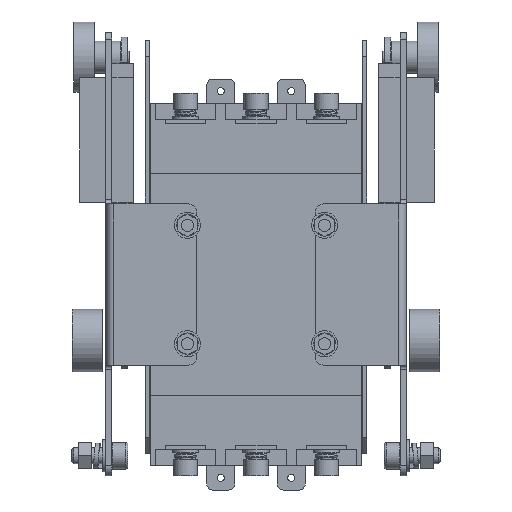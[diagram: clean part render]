
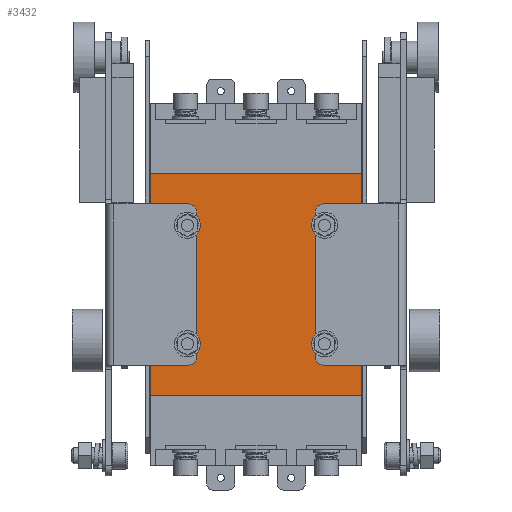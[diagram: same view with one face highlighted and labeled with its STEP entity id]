
A CAD part, front view. The second image highlights one B-rep face of the part: STEP entity #3432.
In plain terms, the highlighted planar face has unit normal (0, -1, 0).
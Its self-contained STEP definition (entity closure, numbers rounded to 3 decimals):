
#3432=ADVANCED_FACE('',(#5818,#5819,#5820,#5821,#5822),#4832,.T.);
#4832=PLANE('',#28495);
#5818=FACE_BOUND('',#7193,.T.);
#5819=FACE_BOUND('',#7194,.T.);
#5820=FACE_BOUND('',#7195,.T.);
#5821=FACE_BOUND('',#7196,.T.);
#5822=FACE_BOUND('',#7197,.T.);
#7193=EDGE_LOOP('',(#15841));
#7194=EDGE_LOOP('',(#15842));
#7195=EDGE_LOOP('',(#15843));
#7196=EDGE_LOOP('',(#15844));
#7197=EDGE_LOOP('',(#15845,#15846,#15847,#15848));
#9421=LINE('',#42483,#11694);
#9448=LINE('',#42539,#11721);
#9451=LINE('',#42545,#11724);
#9452=LINE('',#42555,#11725);
#11694=VECTOR('',#32687,1.);
#11721=VECTOR('',#32732,1.);
#11724=VECTOR('',#32737,1.);
#11725=VECTOR('',#32748,1.);
#15841=ORIENTED_EDGE('',*,*,#24285,.F.);
#15842=ORIENTED_EDGE('',*,*,#24286,.F.);
#15843=ORIENTED_EDGE('',*,*,#24287,.F.);
#15844=ORIENTED_EDGE('',*,*,#24288,.F.);
#15845=ORIENTED_EDGE('',*,*,#24281,.T.);
#15846=ORIENTED_EDGE('',*,*,#24248,.T.);
#15847=ORIENTED_EDGE('',*,*,#24284,.T.);
#15848=ORIENTED_EDGE('',*,*,#24289,.T.);
#21321=VERTEX_POINT('',#42484);
#21322=VERTEX_POINT('',#42485);
#21341=VERTEX_POINT('',#42540);
#21342=VERTEX_POINT('',#42544);
#21343=VERTEX_POINT('',#42548);
#21344=VERTEX_POINT('',#42550);
#21345=VERTEX_POINT('',#42552);
#21346=VERTEX_POINT('',#42554);
#24248=EDGE_CURVE('',#21321,#21322,#9421,.T.);
#24281=EDGE_CURVE('',#21341,#21321,#9448,.T.);
#24284=EDGE_CURVE('',#21322,#21342,#9451,.T.);
#24285=EDGE_CURVE('',#21343,#21343,#26833,.T.);
#24286=EDGE_CURVE('',#21344,#21344,#26834,.T.);
#24287=EDGE_CURVE('',#21345,#21345,#26835,.T.);
#24288=EDGE_CURVE('',#21346,#21346,#26836,.T.);
#24289=EDGE_CURVE('',#21342,#21341,#9452,.T.);
#26833=CIRCLE('',#28491,2.5);
#26834=CIRCLE('',#28492,2.5);
#26835=CIRCLE('',#28493,2.5);
#26836=CIRCLE('',#28494,2.5);
#28491=AXIS2_PLACEMENT_3D('',#42547,#32740,#32741);
#28492=AXIS2_PLACEMENT_3D('',#42549,#32742,#32743);
#28493=AXIS2_PLACEMENT_3D('',#42551,#32744,#32745);
#28494=AXIS2_PLACEMENT_3D('',#42553,#32746,#32747);
#28495=AXIS2_PLACEMENT_3D('',#42556,#32749,#32750);
#32687=DIRECTION('',(1.,0.,0.));
#32732=DIRECTION('',(0.,0.,-1.));
#32737=DIRECTION('',(0.,0.,1.));
#32740=DIRECTION('',(0.,-1.,0.));
#32741=DIRECTION('',(0.,0.,-1.));
#32742=DIRECTION('',(0.,-1.,0.));
#32743=DIRECTION('',(0.,0.,-1.));
#32744=DIRECTION('',(0.,-1.,0.));
#32745=DIRECTION('',(0.,0.,-1.));
#32746=DIRECTION('',(0.,-1.,0.));
#32747=DIRECTION('',(0.,0.,-1.));
#32748=DIRECTION('',(-1.,0.,0.));
#32749=DIRECTION('',(0.,-1.,0.));
#32750=DIRECTION('',(0.,0.,-1.));
#42483=CARTESIAN_POINT('',(0.,-176.876,-120.6));
#42484=CARTESIAN_POINT('',(1497.291,-176.876,-120.6));
#42485=CARTESIAN_POINT('',(1602.291,-176.876,-120.6));
#42539=CARTESIAN_POINT('',(1497.291,-176.876,24.4));
#42540=CARTESIAN_POINT('',(1497.291,-176.876,-10.6));
#42544=CARTESIAN_POINT('',(1602.291,-176.876,-10.6));
#42545=CARTESIAN_POINT('',(1602.291,-176.876,-155.6));
#42547=CARTESIAN_POINT('',(1515.723,-176.876,-36.2));
#42548=CARTESIAN_POINT('',(1515.723,-176.876,-38.7));
#42549=CARTESIAN_POINT('',(1515.723,-176.876,-95.));
#42550=CARTESIAN_POINT('',(1515.723,-176.876,-97.5));
#42551=CARTESIAN_POINT('',(1583.858,-176.876,-95.));
#42552=CARTESIAN_POINT('',(1583.858,-176.876,-97.5));
#42553=CARTESIAN_POINT('',(1583.858,-176.876,-36.2));
#42554=CARTESIAN_POINT('',(1583.858,-176.876,-38.7));
#42555=CARTESIAN_POINT('',(0.,-176.876,-10.6));
#42556=CARTESIAN_POINT('',(0.,-176.876,0.));
